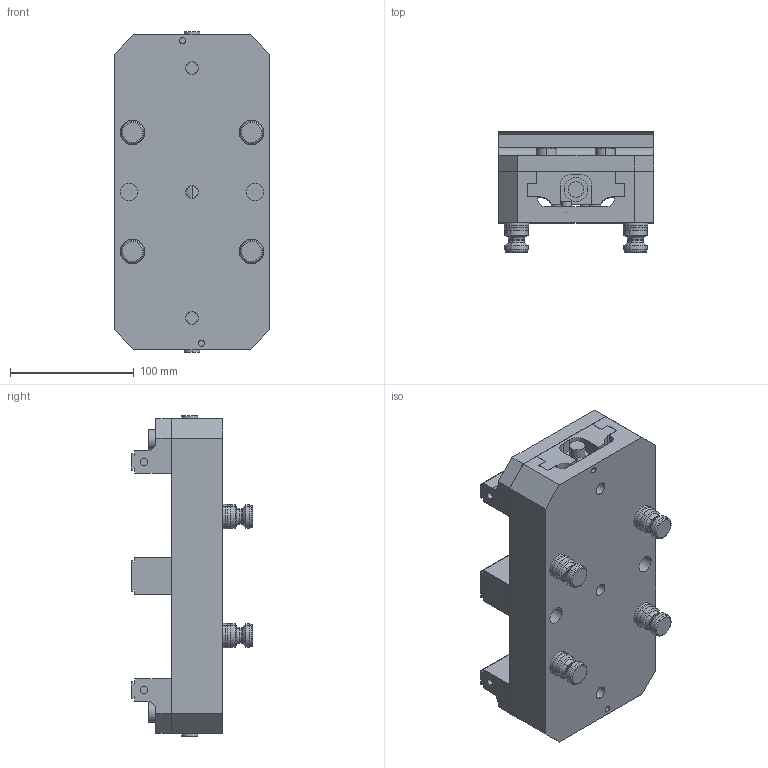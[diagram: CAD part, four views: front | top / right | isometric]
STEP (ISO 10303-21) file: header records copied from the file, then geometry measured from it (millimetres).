
FILE_DESCRIPTION (( 'STEP AP214' ), '1' );
FILE_NAME ('D_R96-DV510-J4.STEP', '2020-03-13T21:47:27', ( '' ), ( '' ), 'SwSTEP 2.0', 'SolidWorks 2018', '' );
FILE_SCHEMA (( 'AUTOMOTIVE_DESIGN' ));
Length unit declared in the file: millimetre
Products named in the file (9): D_V562M-5F; D_DV510-1; D_PS20F_HARD TURN; D_R96-DV510-J4; D_V562M-5; D_V562M-2RDV; D_V562M-5CDV; D_DV510-J4; D_V562M-2
Assembly tree (11 placements, depth 3):
  D_R96-DV510-J4
    D_DV510-J4
      D_DV510-1
      D_V562M-2RDV
      D_V562M-5CDV
      D_V562M-5F
      D_V562M-2
      D_V562M-5
    D_PS20F_HARD TURN  x4
Bounding box: 125.73 x 97.66 x 258.32 mm (x, y, z)
Volume: 1303429.3 mm3; surface area: 246480 mm2
Topology: 11 solids, 11 shells, 502 faces, 1154 edges, 724 vertices
Faces by surface type: cylinder 208, plane 190, torus 64, cone 40
Entity records: 13702 total; most frequent: CARTESIAN_POINT 2482, DIRECTION 2098, ORIENTED_EDGE 1852, EDGE_CURVE 926, AXIS2_PLACEMENT_3D 806, VERTEX_POINT 604, LINE 486, VECTOR 486
